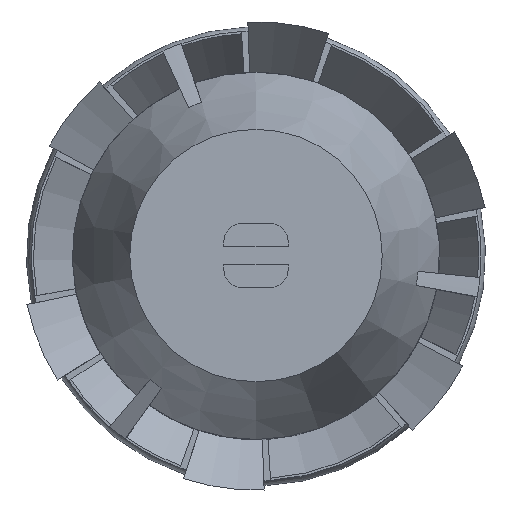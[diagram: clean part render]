
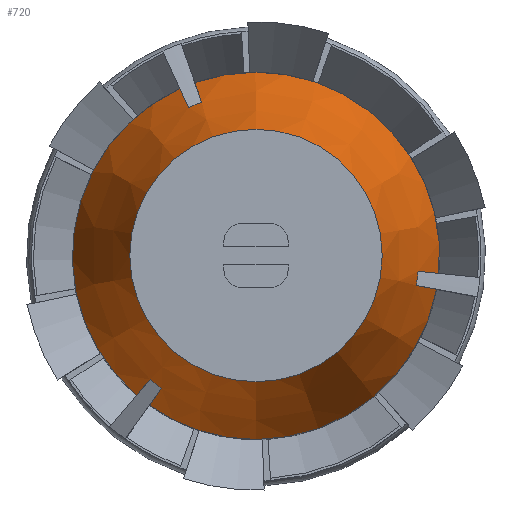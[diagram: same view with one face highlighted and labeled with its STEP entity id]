
A CAD part, top view. The second image highlights one B-rep face of the part: STEP entity #720.
In plain terms, the highlighted conical face has half-angle 21.038 degrees and reference radius 6.75 mm.
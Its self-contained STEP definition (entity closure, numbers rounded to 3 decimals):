
#75=CARTESIAN_POINT('',(-3.316,7.281,11.848));
#76=VERTEX_POINT('',#75);
#228=CARTESIAN_POINT('',(-5.197,-6.082,11.848));
#229=VERTEX_POINT('',#228);
#236=CARTESIAN_POINT('',(0.,0.,11.848));
#237=DIRECTION('',(0.0,0.0,-1.0));
#238=DIRECTION('',(0.0,-1.0,0.0));
#239=AXIS2_PLACEMENT_3D('',#236,#237,#238);
#240=CIRCLE('',#239,8.0);
#241=EDGE_CURVE('',#229,#76,#240,.T.);
#251=CARTESIAN_POINT('',(7.866,-1.46,11.848));
#252=VERTEX_POINT('',#251);
#261=CARTESIAN_POINT('',(-4.647,-6.512,11.848));
#262=VERTEX_POINT('',#261);
#263=CARTESIAN_POINT('',(0.,0.,11.848));
#264=DIRECTION('',(0.0,0.0,-1.0));
#265=DIRECTION('',(0.0,-1.0,0.0));
#266=AXIS2_PLACEMENT_3D('',#263,#264,#265);
#267=CIRCLE('',#266,8.0);
#268=EDGE_CURVE('',#252,#262,#267,.T.);
#431=CARTESIAN_POINT('',(7.963,-0.769,11.848));
#432=VERTEX_POINT('',#431);
#584=CARTESIAN_POINT('',(-2.669,7.542,11.848));
#585=VERTEX_POINT('',#584);
#592=CARTESIAN_POINT('',(0.,0.,11.848));
#593=DIRECTION('',(0.0,0.0,-1.0));
#594=DIRECTION('',(0.0,-1.0,0.0));
#595=AXIS2_PLACEMENT_3D('',#592,#593,#594);
#596=CIRCLE('',#595,8.0);
#597=EDGE_CURVE('',#585,#432,#596,.T.);
#630=CARTESIAN_POINT('',(0.,0.,15.098));
#631=DIRECTION('',(0.,0.,-1.0));
#632=DIRECTION('',(0.0,-1.0,0.0));
#633=AXIS2_PLACEMENT_3D('',#630,#631,#632);
#634=CONICAL_SURFACE('',#633,6.75,21.038);
#635=CARTESIAN_POINT('',(7.062,-0.682,14.202));
#636=VERTEX_POINT('',#635);
#637=CARTESIAN_POINT('',(7.963,-0.769,11.848));
#638=DIRECTION('',(-0.357,0.034,0.933));
#639=VECTOR('',#638,2.522);
#640=LINE('',#637,#639);
#641=EDGE_CURVE('',#432,#636,#640,.T.);
#642=ORIENTED_EDGE('',*,*,#641,.F.);
#643=ORIENTED_EDGE('',*,*,#597,.F.);
#644=CARTESIAN_POINT('',(-2.367,6.688,14.202));
#645=VERTEX_POINT('',#644);
#646=CARTESIAN_POINT('',(-2.367,6.688,14.202));
#647=DIRECTION('',(-0.12,0.338,-0.933));
#648=VECTOR('',#647,2.522);
#649=LINE('',#646,#648);
#650=EDGE_CURVE('',#645,#585,#649,.T.);
#651=ORIENTED_EDGE('',*,*,#650,.F.);
#652=CARTESIAN_POINT('',(-2.94,6.457,14.202));
#653=VERTEX_POINT('',#652);
#654=CARTESIAN_POINT('',(0.,0.,14.202));
#655=DIRECTION('',(0.0,0.0,-1.0));
#656=DIRECTION('',(0.0,-1.0,0.0));
#657=AXIS2_PLACEMENT_3D('',#654,#655,#656);
#658=CIRCLE('',#657,7.095);
#659=EDGE_CURVE('',#653,#645,#658,.T.);
#660=ORIENTED_EDGE('',*,*,#659,.F.);
#661=CARTESIAN_POINT('',(-3.316,7.281,11.848));
#662=DIRECTION('',(0.149,-0.327,0.933));
#663=VECTOR('',#662,2.522);
#664=LINE('',#661,#663);
#665=EDGE_CURVE('',#76,#653,#664,.T.);
#666=ORIENTED_EDGE('',*,*,#665,.F.);
#667=ORIENTED_EDGE('',*,*,#241,.F.);
#668=CARTESIAN_POINT('',(-4.609,-5.394,14.202));
#669=VERTEX_POINT('',#668);
#670=CARTESIAN_POINT('',(-4.609,-5.394,14.202));
#671=DIRECTION('',(-0.233,-0.273,-0.933));
#672=VECTOR('',#671,2.522);
#673=LINE('',#670,#672);
#674=EDGE_CURVE('',#669,#229,#673,.T.);
#675=ORIENTED_EDGE('',*,*,#674,.F.);
#676=CARTESIAN_POINT('',(-4.121,-5.775,14.202));
#677=VERTEX_POINT('',#676);
#678=CARTESIAN_POINT('',(0.,0.,14.202));
#679=DIRECTION('',(0.0,0.0,-1.0));
#680=DIRECTION('',(0.0,-1.0,0.0));
#681=AXIS2_PLACEMENT_3D('',#678,#679,#680);
#682=CIRCLE('',#681,7.095);
#683=EDGE_CURVE('',#677,#669,#682,.T.);
#684=ORIENTED_EDGE('',*,*,#683,.F.);
#685=CARTESIAN_POINT('',(-4.647,-6.512,11.848));
#686=DIRECTION('',(0.209,0.292,0.933));
#687=VECTOR('',#686,2.522);
#688=LINE('',#685,#687);
#689=EDGE_CURVE('',#262,#677,#688,.T.);
#690=ORIENTED_EDGE('',*,*,#689,.F.);
#691=ORIENTED_EDGE('',*,*,#268,.F.);
#692=CARTESIAN_POINT('',(6.976,-1.295,14.202));
#693=VERTEX_POINT('',#692);
#694=CARTESIAN_POINT('',(6.976,-1.295,14.202));
#695=DIRECTION('',(0.353,-0.066,-0.933));
#696=VECTOR('',#695,2.522);
#697=LINE('',#694,#696);
#698=EDGE_CURVE('',#693,#252,#697,.T.);
#699=ORIENTED_EDGE('',*,*,#698,.F.);
#700=CARTESIAN_POINT('',(0.,0.,14.202));
#701=DIRECTION('',(0.0,0.0,-1.0));
#702=DIRECTION('',(0.0,-1.0,0.0));
#703=AXIS2_PLACEMENT_3D('',#700,#701,#702);
#704=CIRCLE('',#703,7.095);
#705=EDGE_CURVE('',#636,#693,#704,.T.);
#706=ORIENTED_EDGE('',*,*,#705,.F.);
#707=EDGE_LOOP('',(#642,#643,#651,#660,#666,#667,#675,#684,#690,#691,#699,#706));
#708=FACE_OUTER_BOUND('',#707,.T.);
#709=CARTESIAN_POINT('',(0.,-5.5,18.348));
#710=VERTEX_POINT('',#709);
#711=CARTESIAN_POINT('',(0.,0.,18.348));
#712=DIRECTION('',(0.0,0.0,-1.0));
#713=DIRECTION('',(0.0,-1.0,0.0));
#714=AXIS2_PLACEMENT_3D('',#711,#712,#713);
#715=CIRCLE('',#714,5.5);
#716=EDGE_CURVE('',#710,#710,#715,.T.);
#717=ORIENTED_EDGE('',*,*,#716,.T.);
#718=EDGE_LOOP('',(#717));
#719=FACE_BOUND('',#718,.T.);
#720=ADVANCED_FACE('',(#708,#719),#634,.T.);
